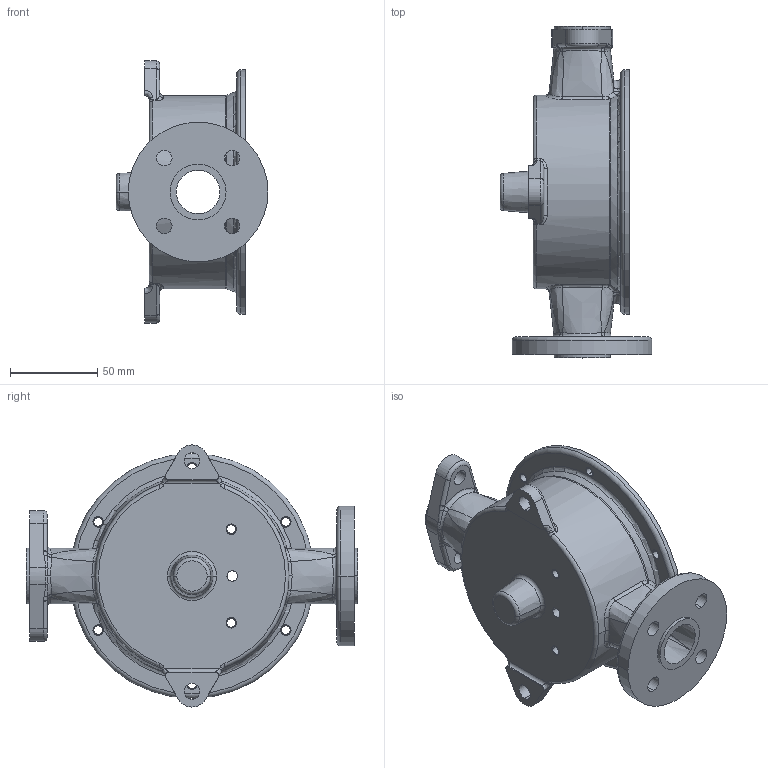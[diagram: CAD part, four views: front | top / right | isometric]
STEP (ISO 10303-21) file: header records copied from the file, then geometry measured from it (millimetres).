
FILE_DESCRIPTION((''),'2;1');
FILE_NAME('FLUEGELPUMPE_GEHAEUSE','2022-08-24T10:46:14',('H041970'),(''),'CREO PARAMETRIC BY PTC INC, 2021284','CREO PARAMETRIC BY PTC INC, 2021284','');
FILE_SCHEMA(('CONFIG_CONTROL_DESIGN'));
Length unit declared in the file: millimetre
Products named in the file (1): FLUEGELPUMPE_GEHAEUSE
Bounding box: 87 x 190 x 150 mm (x, y, z)
Volume: 249407.2 mm3; surface area: 97122.8 mm2
Topology: 1 solids, 9 shells, 253 faces, 616 edges, 372 vertices
Faces by surface type: bspline 106, cylinder 88, plane 27, torus 26, cone 4, sphere 2
Entity records: 18670 total; most frequent: CARTESIAN_POINT 13221, ORIENTED_EDGE 1200, DIRECTION 1008, EDGE_CURVE 616, AXIS2_PLACEMENT_3D 442, VERTEX_POINT 372, EDGE_LOOP 298, CIRCLE 294
